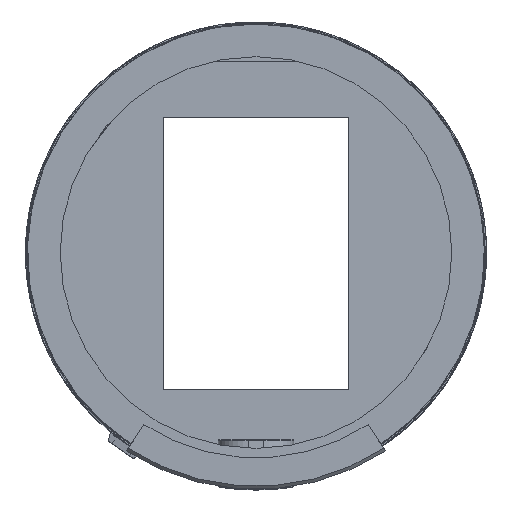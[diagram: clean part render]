
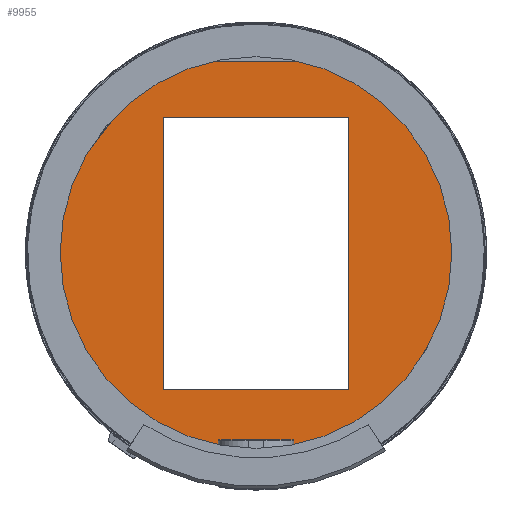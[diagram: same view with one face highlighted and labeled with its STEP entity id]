
A CAD part, top view. The second image highlights one B-rep face of the part: STEP entity #9955.
In plain terms, the highlighted planar face has unit normal (0, 0, 1).
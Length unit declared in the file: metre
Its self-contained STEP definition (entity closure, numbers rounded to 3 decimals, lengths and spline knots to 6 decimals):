
#9955=ADVANCED_FACE('',(#13014,#13015),#13016,.T.);
#13014=FACE_OUTER_BOUND('',#18325,.T.);
#13015=FACE_BOUND('',#18326,.T.);
#13016=PLANE('',#18327);
#18325=EDGE_LOOP('',(#46378,#46379,#46380,#46381,#46382,#46383,#46384,#46385));
#18326=EDGE_LOOP('',(#46386,#46387,#46388,#46389));
#18327=AXIS2_PLACEMENT_3D('',#46390,#46391,#46392);
#46378=ORIENTED_EDGE('',*,*,#58587,.T.);
#46379=ORIENTED_EDGE('',*,*,#58586,.T.);
#46380=ORIENTED_EDGE('',*,*,#58588,.T.);
#46381=ORIENTED_EDGE('',*,*,#58589,.T.);
#46382=ORIENTED_EDGE('',*,*,#58590,.T.);
#46383=ORIENTED_EDGE('',*,*,#58576,.T.);
#46384=ORIENTED_EDGE('',*,*,#58591,.T.);
#46385=ORIENTED_EDGE('',*,*,#58592,.T.);
#46386=ORIENTED_EDGE('',*,*,#58593,.T.);
#46387=ORIENTED_EDGE('',*,*,#58594,.T.);
#46388=ORIENTED_EDGE('',*,*,#58595,.T.);
#46389=ORIENTED_EDGE('',*,*,#58596,.T.);
#46390=CARTESIAN_POINT('',(0.,0.,-0.490538));
#46391=DIRECTION('',(0.0,0.0,1.0));
#46392=DIRECTION('',(1.0,0.0,0.0));
#58576=EDGE_CURVE('',#64623,#64629,#64631,.T.);
#58586=EDGE_CURVE('',#64641,#64648,#64650,.T.);
#58587=EDGE_CURVE('',#64651,#64641,#64652,.T.);
#58588=EDGE_CURVE('',#64648,#64653,#64654,.T.);
#58589=EDGE_CURVE('',#64653,#64635,#64655,.T.);
#58590=EDGE_CURVE('',#64635,#64623,#64656,.T.);
#58591=EDGE_CURVE('',#64629,#64657,#64658,.T.);
#58592=EDGE_CURVE('',#64657,#64651,#64659,.T.);
#58593=EDGE_CURVE('',#64660,#64661,#64662,.T.);
#58594=EDGE_CURVE('',#64661,#64663,#64664,.T.);
#58595=EDGE_CURVE('',#64663,#64665,#64666,.T.);
#58596=EDGE_CURVE('',#64665,#64660,#64667,.T.);
#64623=VERTEX_POINT('',#75417);
#64629=VERTEX_POINT('',#75426);
#64631=LINE('',#75429,#75430);
#64635=VERTEX_POINT('',#75435);
#64641=VERTEX_POINT('',#75444);
#64648=VERTEX_POINT('',#75455);
#64650=LINE('',#75458,#75459);
#64651=VERTEX_POINT('',#75460);
#64652=CIRCLE('',#75461,0.229743);
#64653=VERTEX_POINT('',#75462);
#64654=LINE('',#75463,#75464);
#64655=LINE('',#75465,#75466);
#64656=CIRCLE('',#75467,0.229743);
#64657=VERTEX_POINT('',#75468);
#64658=LINE('',#75469,#75470);
#64659=LINE('',#75471,#75472);
#64660=VERTEX_POINT('',#75473);
#64661=VERTEX_POINT('',#75474);
#64662=LINE('',#75475,#75476);
#64663=VERTEX_POINT('',#75477);
#64664=LINE('',#75478,#75479);
#64665=VERTEX_POINT('',#75480);
#64666=LINE('',#75481,#75482);
#64667=LINE('',#75483,#75484);
#75417=CARTESIAN_POINT('',(-0.219855,0.066675,-0.490538));
#75426=CARTESIAN_POINT('',(-0.213505,0.066675,-0.490538));
#75429=CARTESIAN_POINT('',(-0.219855,0.066675,-0.490538));
#75430=VECTOR('',#102324,1.0);
#75435=CARTESIAN_POINT('',(0.219855,0.066675,-0.490538));
#75444=CARTESIAN_POINT('',(0.219855,-0.066675,-0.490538));
#75455=CARTESIAN_POINT('',(0.213505,-0.066675,-0.490538));
#75458=CARTESIAN_POINT('',(0.219855,-0.066675,-0.490538));
#75459=VECTOR('',#102334,1.0);
#75460=CARTESIAN_POINT('',(-0.219855,-0.066675,-0.490538));
#75461=AXIS2_PLACEMENT_3D('',#102335,#102336,#102337);
#75462=CARTESIAN_POINT('',(0.213505,0.066675,-0.490538));
#75463=CARTESIAN_POINT('',(0.213505,-0.066675,-0.490538));
#75464=VECTOR('',#102338,1.0);
#75465=CARTESIAN_POINT('',(0.213505,0.066675,-0.490538));
#75466=VECTOR('',#102339,1.0);
#75467=AXIS2_PLACEMENT_3D('',#102340,#102341,#102342);
#75468=CARTESIAN_POINT('',(-0.213505,-0.066675,-0.490538));
#75469=CARTESIAN_POINT('',(-0.213505,0.066675,-0.490538));
#75470=VECTOR('',#102343,1.0);
#75471=CARTESIAN_POINT('',(-0.213505,-0.066675,-0.490538));
#75472=VECTOR('',#102344,1.0);
#75473=CARTESIAN_POINT('',(0.093015,0.137008,-0.490538));
#75474=CARTESIAN_POINT('',(0.093015,-0.137008,-0.490538));
#75475=CARTESIAN_POINT('',(0.093015,0.137008,-0.490538));
#75476=VECTOR('',#102345,1.0);
#75477=CARTESIAN_POINT('',(-0.093015,-0.137008,-0.490538));
#75478=CARTESIAN_POINT('',(0.093015,-0.137008,-0.490538));
#75479=VECTOR('',#102346,1.0);
#75480=CARTESIAN_POINT('',(-0.093015,0.137008,-0.490538));
#75481=CARTESIAN_POINT('',(-0.093015,-0.137008,-0.490538));
#75482=VECTOR('',#102347,1.0);
#75483=CARTESIAN_POINT('',(-0.093015,0.137008,-0.490538));
#75484=VECTOR('',#102348,1.0);
#102324=DIRECTION('',(1.0,0.0,0.0));
#102334=DIRECTION('',(-1.0,0.0,0.0));
#102335=CARTESIAN_POINT('',(0.,0.,-0.490538));
#102336=DIRECTION('',(0.0,0.0,1.0));
#102337=DIRECTION('',(1.0,0.0,0.0));
#102338=DIRECTION('',(0.,1.0,0.0));
#102339=DIRECTION('',(1.0,0.0,0.0));
#102340=CARTESIAN_POINT('',(0.0,0.0,-0.490538));
#102341=DIRECTION('',(0.0,0.0,1.0));
#102342=DIRECTION('',(1.0,0.0,0.0));
#102343=DIRECTION('',(0.,-1.0,0.0));
#102344=DIRECTION('',(-1.0,0.0,0.0));
#102345=DIRECTION('',(0.0,-1.0,0.0));
#102346=DIRECTION('',(-1.0,0.0,0.0));
#102347=DIRECTION('',(0.0,1.0,0.0));
#102348=DIRECTION('',(1.0,0.0,0.0));
